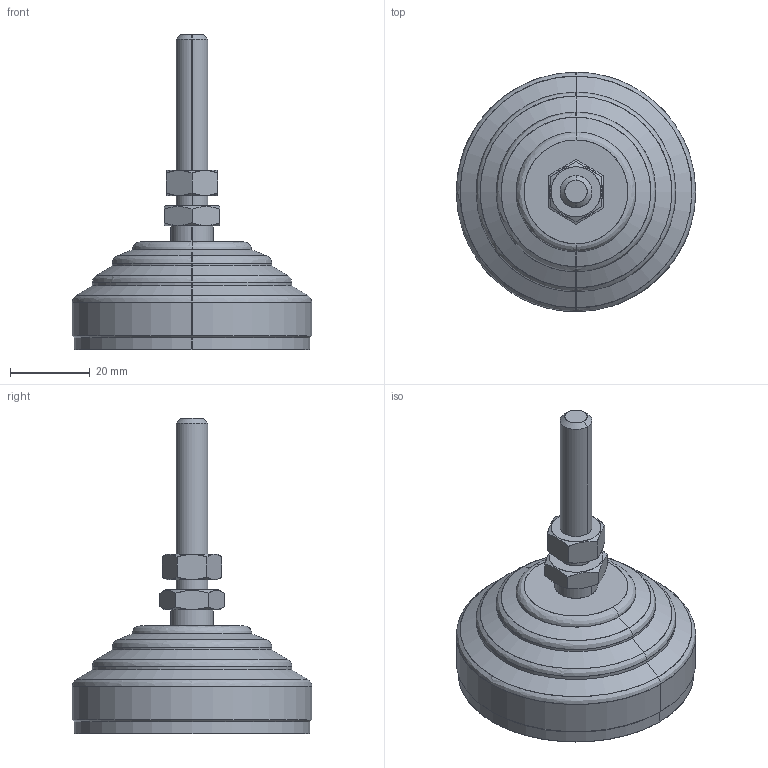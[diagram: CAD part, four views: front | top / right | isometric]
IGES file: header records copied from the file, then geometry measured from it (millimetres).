
Start section: SolidWorks IGES file using analytic representation for surfaces
Global section: file name: X:\11_SW2020-Inv2020\00_全2021-11新製品まで\l\LVAR60S8A-SUS\lvar60s8a-sus.IGS; native system: SolidWorks 2020; preprocessor: SolidWorks 2020; author: ImaoCorp; date: 211025.123659; units: millimetre
Bounding box: 60 x 60 x 79 mm (x, y, z)
Surface area: 11097.3 mm2 (no closed solid volume)
Topology: 0 solids, 0 shells, 59 faces, 928 edges, 928 vertices
Faces by surface type: revolution 32, bspline 27
